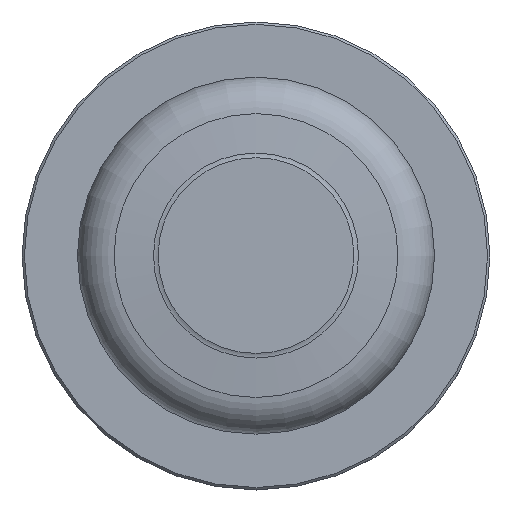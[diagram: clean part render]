
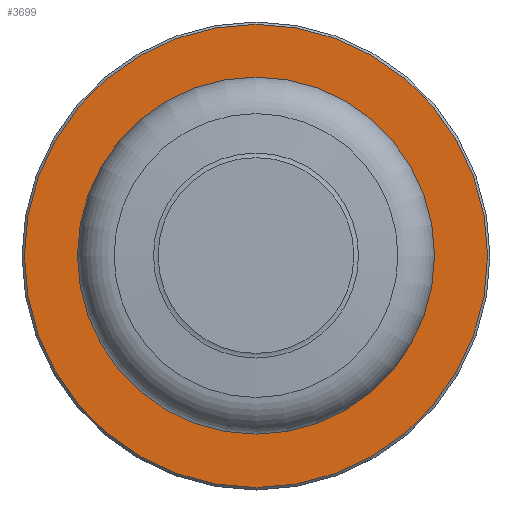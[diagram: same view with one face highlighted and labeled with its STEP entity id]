
A CAD part, top view. The second image highlights one B-rep face of the part: STEP entity #3699.
In plain terms, the highlighted planar face has unit normal (0, 0, 1) as drawn and (0, 1, 0) by its records, which use the part's own axes.
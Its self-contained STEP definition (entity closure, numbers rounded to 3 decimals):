
#3302=FACE_OUTER_BOUND('',#4436,.T.);
#3475=PLANE('',#7087);
#3699=ADVANCED_FACE('AC_MATE2',(#3302),#3475,.F.);
#4436=EDGE_LOOP('',(#4906));
#4906=ORIENTED_EDGE('',*,*,#6318,.T.);
#5932=VERTEX_POINT('',#9126);
#6318=EDGE_CURVE('',#5932,#5932,#6838,.T.);
#6838=CIRCLE('',#7086,24.25);
#7086=AXIS2_PLACEMENT_3D('',#9125,#7718,#7719);
#7087=AXIS2_PLACEMENT_3D('',#9127,#7720,#7721);
#7718=DIRECTION('',(0.,1.,0.));
#7719=DIRECTION('',(1.,0.,0.));
#7720=DIRECTION('',(0.,-1.,0.));
#7721=DIRECTION('',(1.,0.,0.));
#9125=CARTESIAN_POINT('',(0.,14.005,0.));
#9126=CARTESIAN_POINT('',(24.25,14.005,0.));
#9127=CARTESIAN_POINT('',(18.733,14.005,0.));
